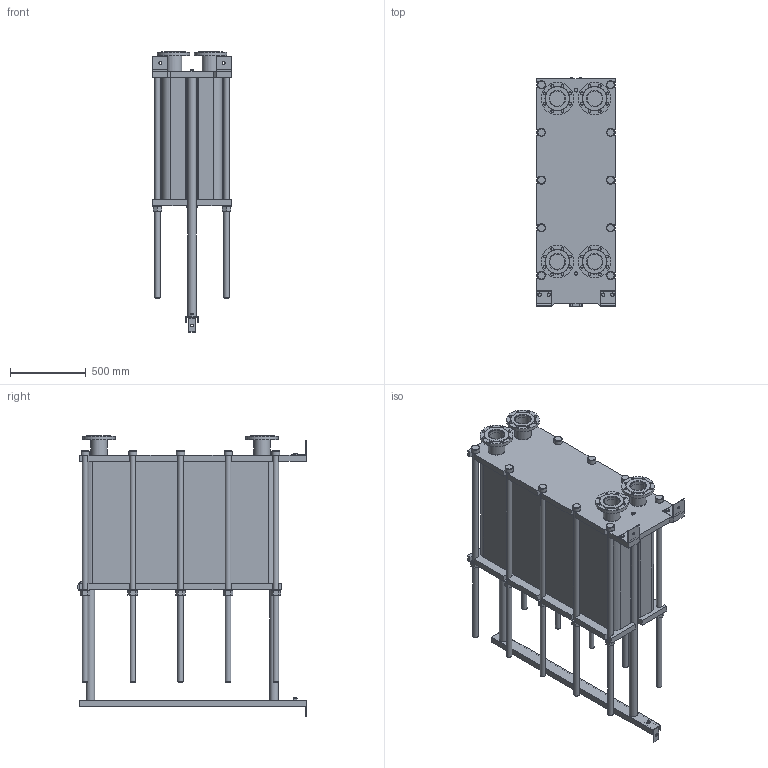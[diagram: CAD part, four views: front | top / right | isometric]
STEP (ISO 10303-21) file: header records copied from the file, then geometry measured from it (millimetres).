
FILE_DESCRIPTION(/* description */ (''),/* implementation_level */ '2;1');
FILE_NAME(/* name */ 'C:\Users\zhuro\Desktop\ENCO\TO\ЭН-04\ЭН-0,5-04-234-1.stp',/* time_stamp */ '2022-06-06T11:05:54+03:00',/* author */ ('zhuro'),/* organization */ (''),/* preprocessor_version */ 'ST-DEVELOPER v18.1',/* originating_system */ 'Autodesk Inventor 2022',/* authorisation */ '');
FILE_SCHEMA (('AUTOMOTIVE_DESIGN { 1 0 10303 214 3 1 1 }'));
Length unit declared in the file: millimetre
Products named in the file (1): ЭН-0,5-04-234-1
Bounding box: 520 x 1510 x 1852 mm (x, y, z)
Volume: 481872356.1 mm3; surface area: 11301934.6 mm2
Topology: 45 solids, 45 shells, 668 faces, 1611 edges, 1048 vertices
Faces by surface type: plane 457, cylinder 166, cone 39, torus 6
Full cylindrical faces by diameter (mm): 8 x4, 10 x2, 16 x8, 18 x35, 36 x25, 40 x2, 42 x1, 45 x4, 54 x10, 57 x2, 60 x10, 68 x2, 100 x4, 110 x8, 215 x4
Entity records: 23607 total; most frequent: CARTESIAN_POINT 7348, DIRECTION 3371, ORIENTED_EDGE 3142, EDGE_CURVE 1571, AXIS2_PLACEMENT_3D 1199, VERTEX_POINT 1044, LINE 973, VECTOR 973
